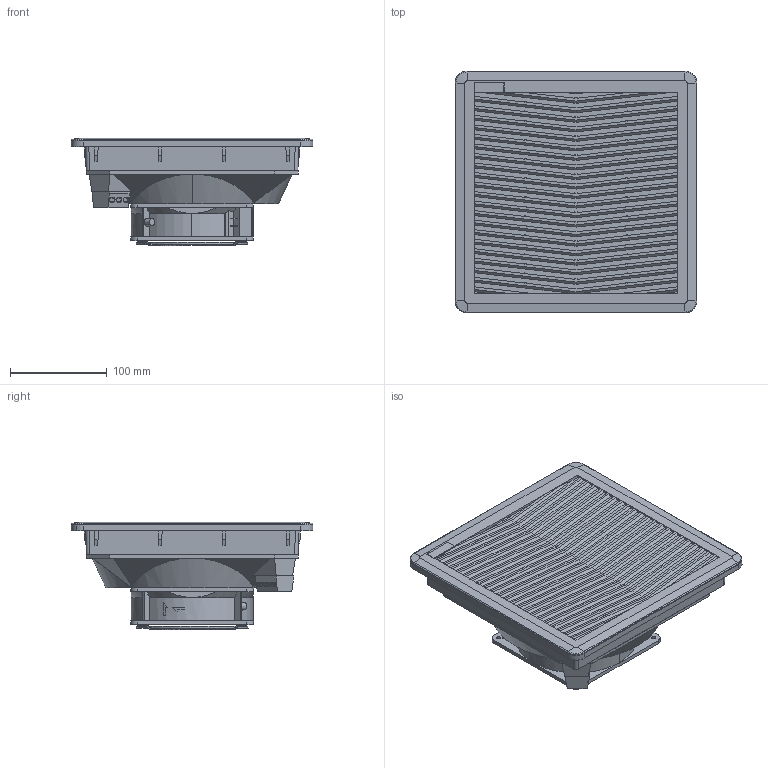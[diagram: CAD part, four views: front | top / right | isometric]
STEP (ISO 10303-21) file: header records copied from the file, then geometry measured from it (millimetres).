
FILE_DESCRIPTION (( 'STEP AP214' ), '1' );
FILE_NAME ('FF15MAxxxyFR.STEP', '2023-10-03T13:03:37', ( '' ), ( '' ), 'SwSTEP 2.0', 'SolidWorks 2022', '' );
FILE_SCHEMA (( 'AUTOMOTIVE_DESIGN' ));
Length unit declared in the file: millimetre
Products named in the file (9): DT-02384DSI_Semplificato; DT-03230DSI_Assieme semplificato; DT-00158DSI_Sede etichetta semplificato; 040013_LK_980-01-3_morsettiera semplificata; DT-04082DSI_mostrina semplificata; DT-01853DSI_Semplificata; FF15MAxxxyFR; DT-00159DSI_Base semplificata; DT-02106DSI_P15FPF-nnnn semplificata
Assembly tree (8 placements, depth 3):
  FF15MAxxxyFR
    DT-03230DSI_Assieme semplificato
      DT-00159DSI_Base semplificata
      DT-00158DSI_Sede etichetta semplificato
      DT-04082DSI_mostrina semplificata
    DT-02106DSI_P15FPF-nnnn semplificata
    DT-02384DSI_Semplificato
    040013_LK_980-01-3_morsettiera semplificata
    DT-01853DSI_Semplificata
Bounding box: 250.12 x 250.08 x 111.3 mm (x, y, z)
Volume: 3244414.3 mm3; surface area: 506694.6 mm2
Topology: 6 solids, 9 shells, 893 faces, 2526 edges, 1668 vertices
Faces by surface type: plane 724, bspline 77, cylinder 67, cone 21, torus 4
Entity records: 40468 total; most frequent: CARTESIAN_POINT 17017, ORIENTED_EDGE 5052, DIRECTION 3323, EDGE_CURVE 2526, VERTEX_POINT 1668, LINE 1363, VECTOR 1363, AXIS2_PLACEMENT_3D 980
